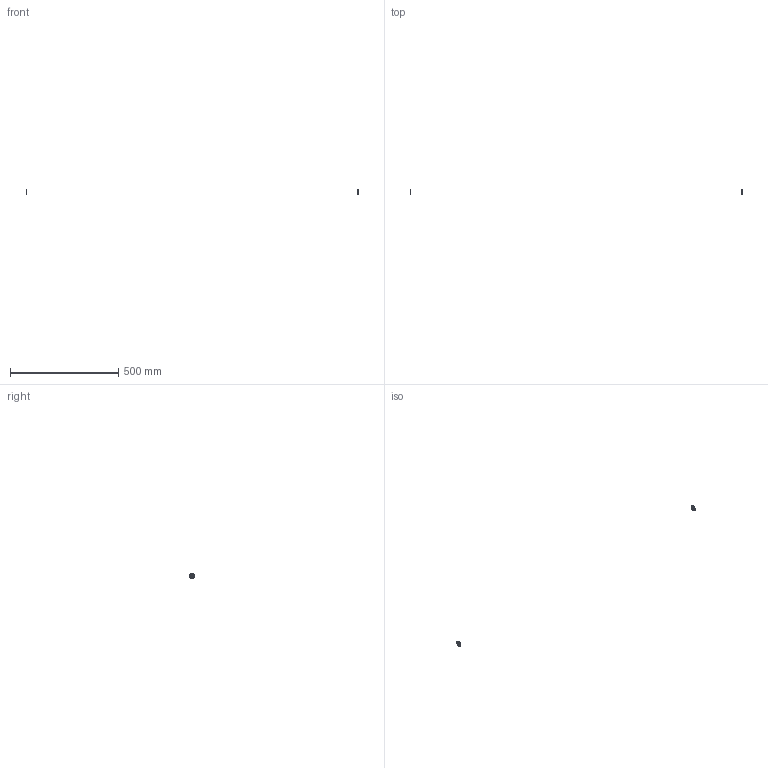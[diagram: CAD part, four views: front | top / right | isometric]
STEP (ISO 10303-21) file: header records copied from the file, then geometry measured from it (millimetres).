
FILE_DESCRIPTION(/* description */ (''),/* implementation_level */ '2;1');
FILE_NAME(/* name */ 'Y-9036~1',/* time_stamp */ '2014-02-14T19:43:17+01:00',/* author */ (''),/* organization */ (''),/* preprocessor_version */ 'ST-DEVELOPER v14',/* originating_system */ '',/* authorisation */ '');
FILE_SCHEMA (('AUTOMOTIVE_DESIGN'));
Length unit declared in the file: millimetre
Products named in the file (1): Document
Bounding box: 1536 x 25 x 25 mm (x, y, z)
Volume: 825.6 mm3; surface area: 1870.1 mm2
Topology: 2 solids, 2 shells, 12 faces, 24 edges, 16 vertices
Faces by surface type: bspline 8, plane 4
Entity records: 781 total; most frequent: CARTESIAN_POINT 432, ORIENTED_EDGE 48, PCURVE 48, DEFINITIONAL_REPRESENTATION 48, B_SPLINE_CURVE_WITH_KNOTS 40, SURFACE_CURVE 24, EDGE_CURVE 24, EDGE_LOOP 16
